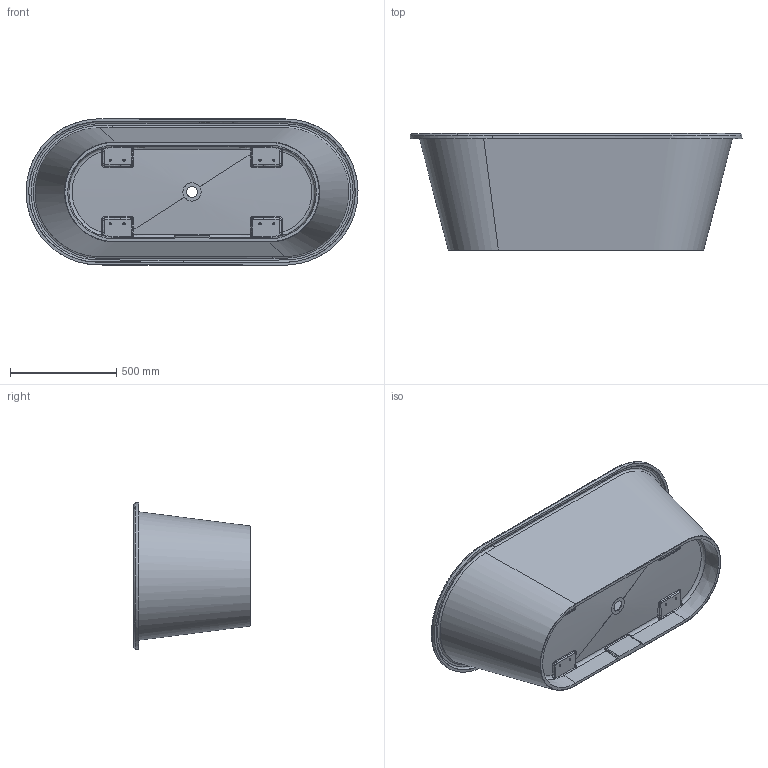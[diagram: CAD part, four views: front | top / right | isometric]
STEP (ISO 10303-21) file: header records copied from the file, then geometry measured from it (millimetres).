
FILE_DESCRIPTION(/* description */ (''),/* implementation_level */ '2;1');
FILE_NAME(/* name */ 'c:\worker\convert-fusion-r09\tmp\job-1\7\output\files\0a03a0c0-8b06-467c-9941-cd59072bbd33\4d6d4f55-b0b1-40c7-82de-9746b022b7d4.stp',/* time_stamp */ '2020-01-03T14:28:37+00:00',/* author */ (''),/* organization */ (''),/* preprocessor_version */ 'ST-DEVELOPER v18',/* originating_system */ 'Autodesk Translation Framework v8.12.0.6',/* authorisation */ '');
FILE_SCHEMA (('AUTOMOTIVE_DESIGN { 1 0 10303 214 3 1 1 }'));
Products named in the file (1): Paris 156
Bounding box: 1561.96 x 550 x 687.77 mm (x, y, z)
Volume: 41787967.6 mm3; surface area: 4939483.9 mm2
Topology: 1 solids, 1 shells, 170 faces, 755 edges, 590 vertices
Faces by surface type: bspline 121, plane 23, cylinder 19, torus 4, cone 3
Full cylindrical faces by diameter (mm): 10 x8, 52 x1
Entity records: 48662 total; most frequent: CARTESIAN_POINT 43815, ORIENTED_EDGE 1494, EDGE_CURVE 747, DIRECTION 648, VERTEX_POINT 590, AXIS2_PLACEMENT_3D 294, EDGE_LOOP 183, CIRCLE 178
